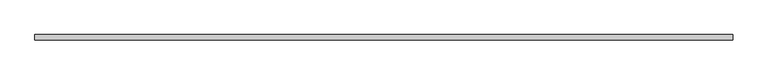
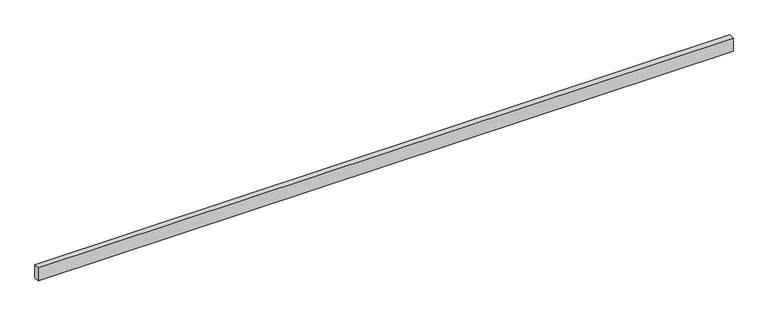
"""IFC4 building model written with IfcOpenShell, lengths in millimetres: proxy geometry, Кабель-каналы_магистральные_цвет-белый : Кабель-канал магистральный 40х16 белый."""

from ifc_helpers import new_model, si_unit, origin, origin_with_axes, place, context, project, spatial, polyline, outline, extrude, source, transform, mapped, element, save


def generic_models_360d6566(model_context):
    return source(origin(), model_context, "Body", "SweptSolid", [
        extrude(outline(polyline([(2000.0, -16.0), (0.0, -16.0), (0.0, 0.0), (2000.0, 0.0), (2000.0, -16.0)])), origin_with_axes(), (0.0, 0.0, 1.0), 40.0),
    ])


if __name__ == "__main__":
    model = new_model("IFC4")
    model_context = context("Model", 3, world=origin())
    ifc_project = project(units=[si_unit("LENGTHUNIT", "METRE", prefix="MILLI")], contexts=[model_context])
    site = spatial("IfcSite", under=ifc_project)
    building = spatial("IfcBuilding", under=site)
    placement = place(None, origin())
    generic_models_shape = generic_models_360d6566(model_context)
    element("IfcBuildingElementProxy", 1, Name="Кабель-каналы_магистральные_цвет-белый : Кабель-канал магистральный 40х16 белый", ObjectType="Кабель-каналы_магистральные_цвет-белый : Кабель-канал магистральный 40х16 белый", at=placement, inside=building, context=model_context, shape_type="MappedRepresentation", body=[
        mapped(generic_models_shape, transform((0.0, 0.0, 0.0), x_axis=(1.0, 0.0, 0.0), y_axis=(0.0, 1.0, 0.0), z_axis=(0.0, 0.0, 1.0))),
    ])
    save(model, "model.ifc")
